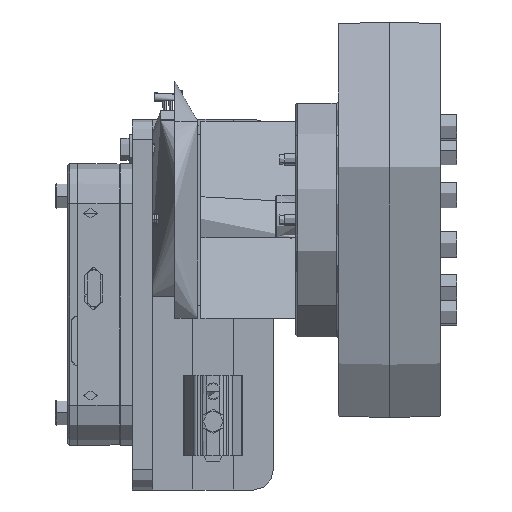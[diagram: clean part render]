
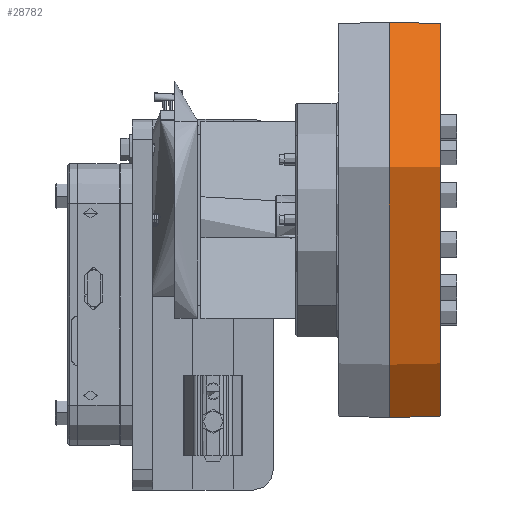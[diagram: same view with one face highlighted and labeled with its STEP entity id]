
A CAD part, left-side view. The second image highlights one B-rep face of the part: STEP entity #28782.
In plain terms, the highlighted conical face has half-angle 2 degrees and reference radius 50.356 mm.
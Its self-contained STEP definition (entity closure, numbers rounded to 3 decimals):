
#330 = DIRECTION ( 'NONE',  ( 0., 0., -1. ) ) ;
#623 = DIRECTION ( 'NONE',  ( 0.999, 0., 0.035 ) ) ;
#644 = DIRECTION ( 'NONE',  ( 1., 0., 0. ) ) ;
#17774 = EDGE_LOOP ( 'NONE', ( #148517, #79563, #32351, #61493 ) ) ;
#20167 = AXIS2_PLACEMENT_3D ( 'NONE', #78253, #125092, #127475 ) ;
#20585 = CARTESIAN_POINT ( 'NONE',  ( -13.924, 0., -50.357 ) ) ;
#21206 = EDGE_CURVE ( 'NONE', #54214, #157967, #145214, .T. ) ;
#25381 = CARTESIAN_POINT ( 'NONE',  ( -13.924, 0., 0. ) ) ;
#28782 = ADVANCED_FACE ( 'NONE', ( #36691 ), #136106, .T. ) ;
#30961 = EDGE_CURVE ( 'NONE', #110225, #157967, #111310, .T. ) ;
#31763 = AXIS2_PLACEMENT_3D ( 'NONE', #123430, #644, #100016 ) ;
#32351 = ORIENTED_EDGE ( 'NONE', *, *, #21206, .F. ) ;
#35519 = VECTOR ( 'NONE', #109211, 1000. ) ;
#36691 = FACE_OUTER_BOUND ( 'NONE', #17774, .T. ) ;
#45687 = AXIS2_PLACEMENT_3D ( 'NONE', #25381, #136844, #330 ) ;
#47027 = CARTESIAN_POINT ( 'NONE',  ( -13.924, 0., -50.357 ) ) ;
#54214 = VERTEX_POINT ( 'NONE', #67840 ) ;
#58974 = EDGE_CURVE ( 'NONE', #110225, #145706, #71707, .T. ) ;
#61493 = ORIENTED_EDGE ( 'NONE', *, *, #90332, .F. ) ;
#67840 = CARTESIAN_POINT ( 'NONE',  ( -1.224, 0., -50.8 ) ) ;
#71707 = CIRCLE ( 'NONE', #20167, 50.357 ) ;
#78253 = CARTESIAN_POINT ( 'NONE',  ( -13.924, 0., 0. ) ) ;
#79563 = ORIENTED_EDGE ( 'NONE', *, *, #30961, .T. ) ;
#90332 = EDGE_CURVE ( 'NONE', #145706, #54214, #145535, .T. ) ;
#100016 = DIRECTION ( 'NONE',  ( 0., 1., 0. ) ) ;
#109211 = DIRECTION ( 'NONE',  ( 0.999, 0., -0.035 ) ) ;
#109708 = CARTESIAN_POINT ( 'NONE',  ( -13.924, 0., 50.357 ) ) ;
#110225 = VERTEX_POINT ( 'NONE', #139506 ) ;
#111310 = LINE ( 'NONE', #109708, #136326 ) ;
#114047 = CARTESIAN_POINT ( 'NONE',  ( -1.224, 0., 50.8 ) ) ;
#123430 = CARTESIAN_POINT ( 'NONE',  ( -1.224, 0., 0. ) ) ;
#125092 = DIRECTION ( 'NONE',  ( -1., 0., 0. ) ) ;
#127475 = DIRECTION ( 'NONE',  ( 0., 0., -1. ) ) ;
#136106 = CONICAL_SURFACE ( 'NONE', #45687, 50.357, 0.035 ) ;
#136326 = VECTOR ( 'NONE', #623, 1000. ) ;
#136844 = DIRECTION ( 'NONE',  ( 1., 0., 0. ) ) ;
#139506 = CARTESIAN_POINT ( 'NONE',  ( -13.924, 0., 50.357 ) ) ;
#145214 = CIRCLE ( 'NONE', #31763, 50.8 ) ;
#145535 = LINE ( 'NONE', #47027, #35519 ) ;
#145706 = VERTEX_POINT ( 'NONE', #20585 ) ;
#148517 = ORIENTED_EDGE ( 'NONE', *, *, #58974, .F. ) ;
#157967 = VERTEX_POINT ( 'NONE', #114047 ) ;
